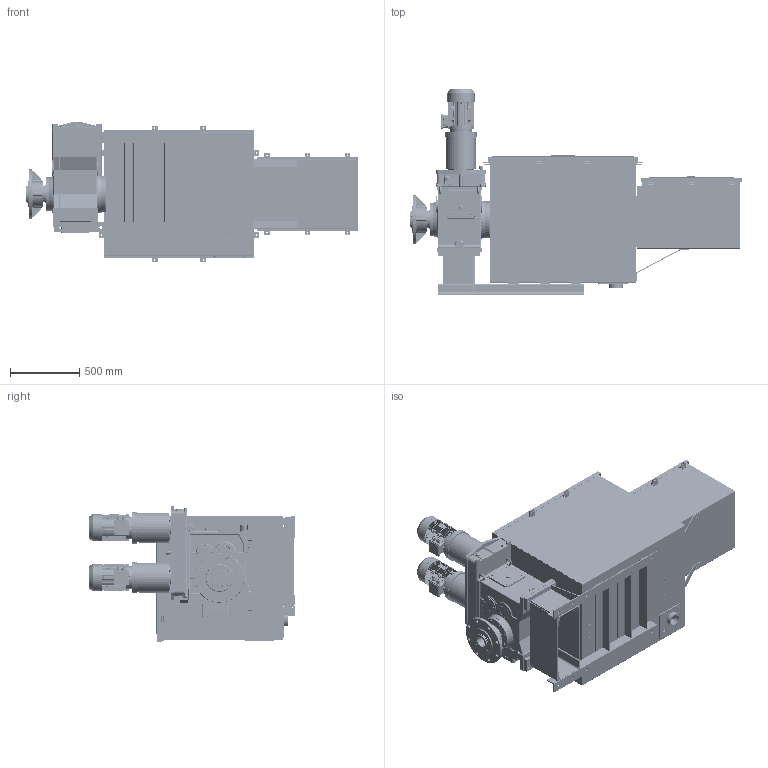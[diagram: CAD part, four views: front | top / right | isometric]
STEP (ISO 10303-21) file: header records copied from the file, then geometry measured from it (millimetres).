
FILE_DESCRIPTION(/* description */ (''),/* implementation_level */ '2;1');
FILE_NAME(/* name */ 'K:\NEMANJA\CABLE REEL\CABLE REEL DA\0700-6\07006002 DAPR-MCGBSR\STEP\75936 .stp',/* time_stamp */ '2017-03-16T12:15:21+01:00',/* author */ ('milman01'),/* organization */ ('Hillmar Industries Ltd.'),/* preprocessor_version */ 'ST-DEVELOPER v16.1',/* originating_system */ 'Autodesk Inventor 2016',/* authorisation */ '');
FILE_SCHEMA (('AUTOMOTIVE_DESIGN { 1 0 10303 214 3 1 1 }'));
Products named in the file (1): 75936 
Bounding box: 2395.67 x 1482.55 x 1016.97 mm (x, y, z)
Volume: 78802123.7 mm3; surface area: 25457437.3 mm2
Topology: 22 solids, 22 shells, 9635 faces, 26524 edges, 17177 vertices
Faces by surface type: plane 6339, cylinder 1887, cone 591, bspline 529, torus 258, sphere 31
Full cylindrical faces by diameter (mm): 3 x8, 7 x3, 8 x26, 8.376 x18, 8.731 x1, 9 x16, 10 x22, 10.106 x85, 11 x44, 12 x16, 12.5 x6, 13 x42, 13.5 x8, 14 x24, 15 x8, 17.294 x4, 18 x4, 18.256 x3, 18.38 x3, 20 x21, 20.5 x4, 21.336 x1, 22 x24, 22.225 x1, 22.3 x3, 22.631 x1, 23.812 x1, 24 x8, 24.917 x1, 24.918 x2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
Entity records: 324849 total; most frequent: CARTESIAN_POINT 77398, ORIENTED_EDGE 50490, DIRECTION 46314, EDGE_CURVE 25206, VERTEX_POINT 16723, LINE 16162, VECTOR 16162, AXIS2_PLACEMENT_3D 15076
